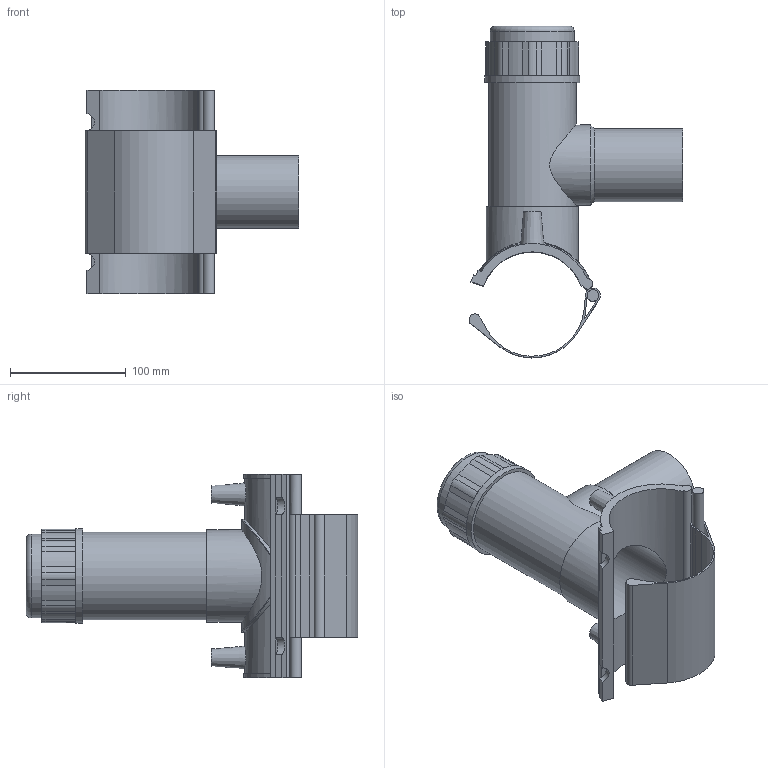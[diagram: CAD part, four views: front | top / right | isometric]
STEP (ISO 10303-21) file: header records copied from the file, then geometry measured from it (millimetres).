
FILE_DESCRIPTION(/* description */ ('PLASSON TAPPING TEE SADDLE 90mm x 63mm'),/* implementation_level */ '2;1');
FILE_NAME(/* name */ 'C:\Dropbox\KIMPROJECTS-Inventor 2019\99-16-3568-Processing\ElectroFusion Fittings\491304\491304090063.stp',/* time_stamp */ '2023-03-23T11:28:23+02:00',/* author */ ('KIM'),/* organization */ (''),/* preprocessor_version */ 'ST-DEVELOPER v17.2',/* originating_system */ 'Autodesk Inventor 2019',/* authorisation */ '');
FILE_SCHEMA (('AUTOMOTIVE_DESIGN { 1 0 10303 214 3 1 1 }'));
Length unit declared in the file: millimetre
Products named in the file (1): 491304090063
Bounding box: 184.49 x 286.35 x 176 mm (x, y, z)
Volume: 664003 mm3; surface area: 209880.9 mm2
Topology: 2 solids, 2 shells, 106 faces, 278 edges, 190 vertices
Faces by surface type: plane 55, cylinder 45, cone 3, bspline 2, torus 1
Full cylindrical faces by diameter (mm): 4 x2, 10 x3, 50.4 x1, 63 x1, 69.3 x1, 69.6 x1, 72.45 x1, 75.6 x1, 79.6 x1, 81.9 x1
Entity records: 3976 total; most frequent: CARTESIAN_POINT 1217, DIRECTION 578, ORIENTED_EDGE 558, EDGE_CURVE 279, AXIS2_PLACEMENT_3D 215, VERTEX_POINT 192, LINE 148, VECTOR 148
